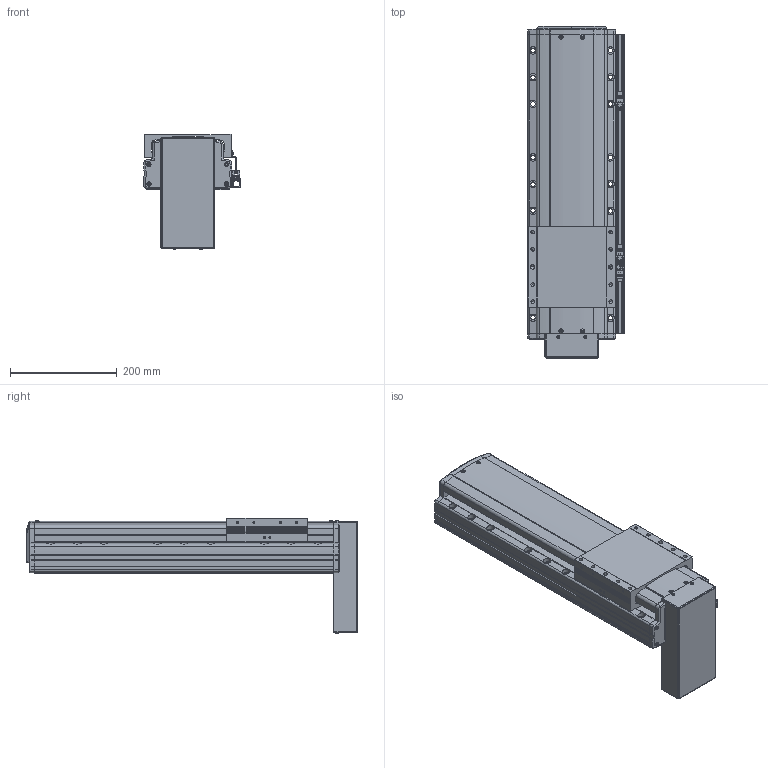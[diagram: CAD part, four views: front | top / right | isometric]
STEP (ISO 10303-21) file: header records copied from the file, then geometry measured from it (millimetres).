
FILE_DESCRIPTION(('STEP AP214'),'1');
FILE_NAME('Z:/Web/3D/PSA165/STP/PSA165-300 (3D)/PSA165ㅁㅁ-300PB+3SR.stp','2014-06-23T09:35:05',(' '),(' '),'Spatial InterOp 3D',' ',' ');
FILE_SCHEMA(('automotive_design'));
Length unit declared in the file: millimetre
Products named in the file (47): 스크루 : Round - M4.0 x 12.0; RRCV-PA160; BASE; 스크루 : Round - M4.0 x 10.0; RN15; Screw 20; SLIDE; FRCV; MTPL CV- PB; 스크루 : Round - M3.0 x 6.0; 1; 2; M3.0 x 6.0; SRL-16x17-360L; SGD-SAN150; EE-SX674; SBK-SX674-352; BHCS M4.0 x 10.0
Bounding box: 181 x 620.8 x 215.96 mm (x, y, z)
Volume: 9113550.6 mm3; surface area: 743034.2 mm2
Topology: 47 solids, 47 shells, 2588 faces, 6876 edges, 4420 vertices
Faces by surface type: plane 1517, cylinder 736, cone 222, sphere 72, bspline 25, torus 16
Entity records: 104391 total; most frequent: CARTESIAN_POINT 17705, DIRECTION 13799, ORIENTED_EDGE 13492, EDGE_CURVE 6746, AXIS2_PLACEMENT_3D 4614, LINE 4571, VECTOR 4571, VERTEX_POINT 4420
